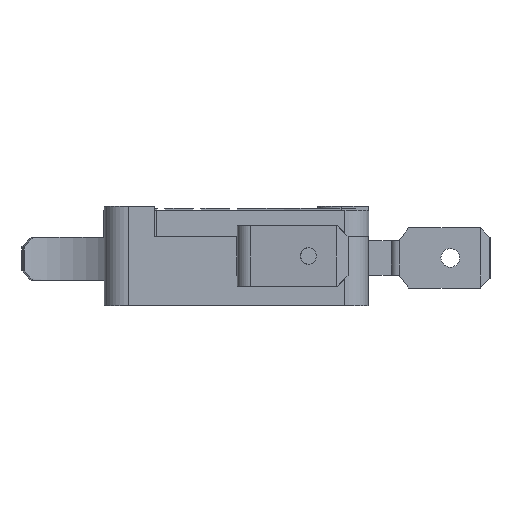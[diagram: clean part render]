
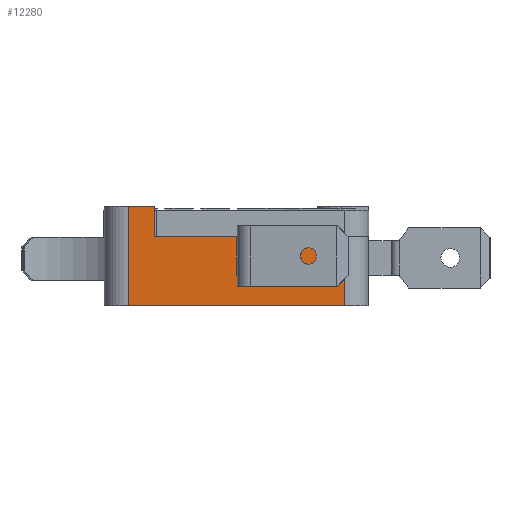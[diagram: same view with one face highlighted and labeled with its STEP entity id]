
A CAD part, front view. The second image highlights one B-rep face of the part: STEP entity #12280.
In plain terms, the highlighted planar face has unit normal (0, -1, 0).
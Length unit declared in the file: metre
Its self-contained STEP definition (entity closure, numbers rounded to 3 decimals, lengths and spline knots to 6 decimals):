
#11982=CARTESIAN_POINT('',(-0.013438,-0.019623,0.030113));
#11983=VERTEX_POINT('',#11982);
#12041=CARTESIAN_POINT('',(-0.021938,-0.019623,0.030113));
#12042=VERTEX_POINT('',#12041);
#12045=CARTESIAN_POINT('',(-0.013438,-0.019623,0.030113));
#12046=DIRECTION('',(-1.,0.,0.));
#12047=VECTOR('',#12046,1.);
#12048=LINE('',#12045,#12047);
#12049=EDGE_CURVE('',#11983,#12042,#12048,.T.);
#12147=CARTESIAN_POINT('',(-0.013438,-0.019623,0.026113));
#12148=VERTEX_POINT('',#12147);
#12151=CARTESIAN_POINT('',(0.000362,-0.019623,0.026113));
#12152=DIRECTION('',(-1.,0.,0.));
#12153=VECTOR('',#12152,1.);
#12154=LINE('',#12151,#12153);
#12155=CARTESIAN_POINT('',(-0.012238,-0.019623,0.026113));
#12156=VERTEX_POINT('',#12155);
#12157=EDGE_CURVE('',#12156,#12148,#12154,.T.);
#12211=CARTESIAN_POINT('',(0.000362,-0.019623,0.030113));
#12212=DIRECTION('',(0.,-1.,0.));
#12213=DIRECTION('',(1.,0.,0.));
#12214=AXIS2_PLACEMENT_3D('',#12211,#12212,#12213);
#12215=PLANE('',#12214);
#12216=CARTESIAN_POINT('',(0.000362,-0.019623,0.022913));
#12217=DIRECTION('',(-1.,0.,0.));
#12218=VECTOR('',#12217,1.);
#12219=LINE('',#12216,#12218);
#12220=CARTESIAN_POINT('',(-0.002138,-0.019623,0.022913));
#12221=VERTEX_POINT('',#12220);
#12222=CARTESIAN_POINT('',(-0.024738,-0.019623,0.022913));
#12223=VERTEX_POINT('',#12222);
#12224=EDGE_CURVE('',#12221,#12223,#12219,.T.);
#12225=ORIENTED_EDGE('',*,*,#12224,.F.);
#12226=CARTESIAN_POINT('',(-0.002138,-0.019623,0.030113));
#12227=DIRECTION('',(0.,0.,-1.));
#12228=VECTOR('',#12227,1.);
#12229=LINE('',#12226,#12228);
#12230=CARTESIAN_POINT('',(-0.002138,-0.019623,0.030113));
#12231=VERTEX_POINT('',#12230);
#12232=EDGE_CURVE('',#12231,#12221,#12229,.T.);
#12233=ORIENTED_EDGE('',*,*,#12232,.F.);
#12234=CARTESIAN_POINT('',(0.000362,-0.019623,0.030113));
#12235=DIRECTION('',(-1.,0.,0.));
#12236=VECTOR('',#12235,1.);
#12237=LINE('',#12234,#12236);
#12238=CARTESIAN_POINT('',(-0.012238,-0.019623,0.030113));
#12239=VERTEX_POINT('',#12238);
#12240=EDGE_CURVE('',#12231,#12239,#12237,.T.);
#12241=ORIENTED_EDGE('',*,*,#12240,.T.);
#12242=CARTESIAN_POINT('',(-0.012238,-0.019623,0.030113));
#12243=DIRECTION('',(0.,0.,-1.));
#12244=VECTOR('',#12243,1.);
#12245=LINE('',#12242,#12244);
#12246=EDGE_CURVE('',#12239,#12156,#12245,.T.);
#12247=ORIENTED_EDGE('',*,*,#12246,.T.);
#12248=ORIENTED_EDGE('',*,*,#12157,.T.);
#12249=CARTESIAN_POINT('',(-0.013438,-0.019623,0.030113));
#12250=DIRECTION('',(0.,0.,-1.));
#12251=VECTOR('',#12250,1.);
#12252=LINE('',#12249,#12251);
#12253=EDGE_CURVE('',#11983,#12148,#12252,.T.);
#12254=ORIENTED_EDGE('',*,*,#12253,.F.);
#12255=ORIENTED_EDGE('',*,*,#12049,.T.);
#12256=CARTESIAN_POINT('',(-0.021938,-0.019623,0.033313));
#12257=DIRECTION('',(0.,0.,-1.));
#12258=VECTOR('',#12257,1.);
#12259=LINE('',#12256,#12258);
#12260=CARTESIAN_POINT('',(-0.021938,-0.019623,0.033313));
#12261=VERTEX_POINT('',#12260);
#12262=EDGE_CURVE('',#12261,#12042,#12259,.T.);
#12263=ORIENTED_EDGE('',*,*,#12262,.F.);
#12264=CARTESIAN_POINT('',(-0.021938,-0.019623,0.033313));
#12265=DIRECTION('',(1.,0.,0.));
#12266=VECTOR('',#12265,1.);
#12267=LINE('',#12264,#12266);
#12268=CARTESIAN_POINT('',(-0.024738,-0.019623,0.033313));
#12269=VERTEX_POINT('',#12268);
#12270=EDGE_CURVE('',#12269,#12261,#12267,.T.);
#12271=ORIENTED_EDGE('',*,*,#12270,.F.);
#12272=CARTESIAN_POINT('',(-0.024738,-0.019623,0.033313));
#12273=DIRECTION('',(0.,0.,-1.));
#12274=VECTOR('',#12273,1.);
#12275=LINE('',#12272,#12274);
#12276=EDGE_CURVE('',#12269,#12223,#12275,.T.);
#12277=ORIENTED_EDGE('',*,*,#12276,.T.);
#12278=EDGE_LOOP('',(#12225,#12233,#12241,#12247,#12248,#12254,#12255,#12263,#12271,#12277));
#12279=FACE_BOUND('',#12278,.T.);
#12280=ADVANCED_FACE('',(#12279),#12215,.T.);
